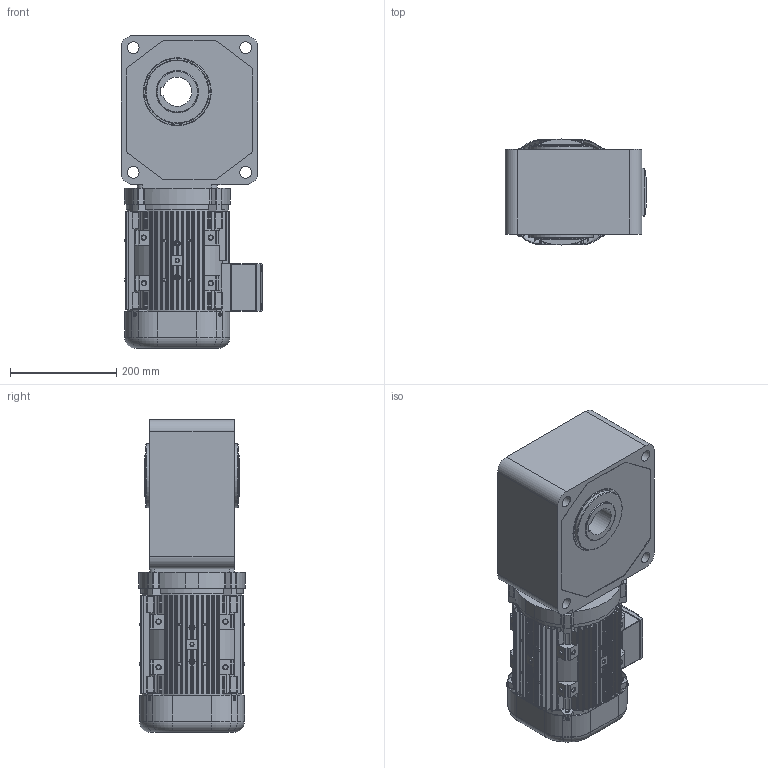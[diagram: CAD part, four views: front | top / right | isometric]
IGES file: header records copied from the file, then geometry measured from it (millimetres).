
Global section: file name: No Iges File Name specified; native system: Autodesk Inventor 2012; preprocessor: AutoDesk Inventor Iges Exporter R2012; author: jingon; date: 20130416.110658; units: millimetre
Bounding box: 267.5 x 200 x 590 mm (x, y, z)
Volume: 13720001.8 mm3; surface area: 1066302.2 mm2
Topology: 22 solids, 22 shells, 1771 faces, 4702 edges, 3098 vertices
Faces by surface type: plane 880, revolution 468, cylinder 344, torus 42, cone 26, bspline 11
Full cylindrical faces by diameter (mm): 4 x8, 7 x8, 8 x4, 12 x4, 13 x4, 13.4 x1, 18.4 x1, 18.6 x1, 22.2 x1, 120 x2, 188 x2
